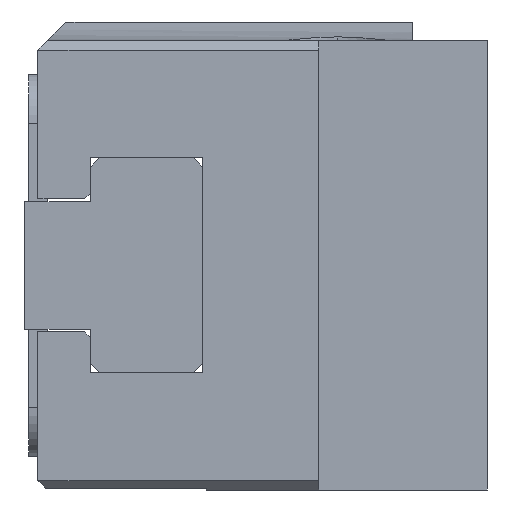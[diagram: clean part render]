
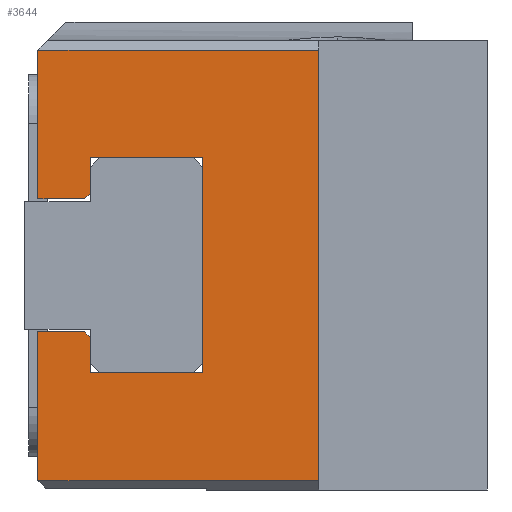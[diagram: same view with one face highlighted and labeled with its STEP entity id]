
A CAD part, left-side view. The second image highlights one B-rep face of the part: STEP entity #3644.
In plain terms, the highlighted planar face has unit normal (-1, 0, 0).
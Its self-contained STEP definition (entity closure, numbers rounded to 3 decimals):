
#106 = CARTESIAN_POINT ( 'NONE',  ( -22.5, 24., 0. ) ) ;
#111 = LINE ( 'NONE', #11834, #14167 ) ;
#143 = VERTEX_POINT ( 'NONE', #3299 ) ;
#171 = ORIENTED_EDGE ( 'NONE', *, *, #10948, .T. ) ;
#514 = DIRECTION ( 'NONE',  ( 0., 0., -1. ) ) ;
#624 = EDGE_LOOP ( 'NONE', ( #9483, #10782, #894, #171, #10718, #7230, #6468, #12890, #4898, #7928, #9270, #8977, #3609, #8436 ) ) ;
#734 = CARTESIAN_POINT ( 'NONE',  ( -22.5, 15.2, 5.75 ) ) ;
#818 = CARTESIAN_POINT ( 'NONE',  ( -22.5, 9., -11.5 ) ) ;
#894 = ORIENTED_EDGE ( 'NONE', *, *, #14099, .T. ) ;
#1093 = CARTESIAN_POINT ( 'NONE',  ( -22.5, 9., 11.5 ) ) ;
#1195 = DIRECTION ( 'NONE',  ( 0., 0.707, 0.707 ) ) ;
#1214 = DIRECTION ( 'NONE',  ( 0., -1., 0. ) ) ;
#1274 = CARTESIAN_POINT ( 'NONE',  ( -22.5, 21.2, 3.85 ) ) ;
#1322 = DIRECTION ( 'NONE',  ( 0., -0.707, 0.707 ) ) ;
#1554 = VERTEX_POINT ( 'NONE', #8199 ) ;
#1556 = EDGE_CURVE ( 'NONE', #8427, #143, #8262, .T. ) ;
#1659 = DIRECTION ( 'NONE',  ( 0., 0., -1. ) ) ;
#2210 = EDGE_CURVE ( 'NONE', #4740, #7560, #111, .T. ) ;
#2254 = LINE ( 'NONE', #10288, #8183 ) ;
#2496 = DIRECTION ( 'NONE',  ( 0., -1., 0. ) ) ;
#2565 = VERTEX_POINT ( 'NONE', #9911 ) ;
#2786 = VERTEX_POINT ( 'NONE', #3110 ) ;
#2800 = LINE ( 'NONE', #1274, #5065 ) ;
#2888 = EDGE_CURVE ( 'NONE', #143, #14112, #11016, .T. ) ;
#2918 = CARTESIAN_POINT ( 'NONE',  ( -22.5, 21.2, -3.85 ) ) ;
#2939 = VERTEX_POINT ( 'NONE', #3566 ) ;
#3001 = VERTEX_POINT ( 'NONE', #8093 ) ;
#3110 = CARTESIAN_POINT ( 'NONE',  ( -22.5, 24., -11.5 ) ) ;
#3170 = CARTESIAN_POINT ( 'NONE',  ( -22.5, 0., 5.75 ) ) ;
#3269 = EDGE_CURVE ( 'NONE', #2786, #9022, #4326, .T. ) ;
#3299 = CARTESIAN_POINT ( 'NONE',  ( -22.5, 15.2, -5.75 ) ) ;
#3508 = CARTESIAN_POINT ( 'NONE',  ( -22.5, 15.2, 0. ) ) ;
#3566 = CARTESIAN_POINT ( 'NONE',  ( -22.5, 21.2, 3.85 ) ) ;
#3609 = ORIENTED_EDGE ( 'NONE', *, *, #8747, .F. ) ;
#3644 = ADVANCED_FACE ( 'NONE', ( #9203 ), #12426, .F. ) ;
#3965 = VECTOR ( 'NONE', #14232, 1000. ) ;
#4037 = DIRECTION ( 'NONE',  ( 0., 1., 0. ) ) ;
#4163 = VECTOR ( 'NONE', #6515, 1000. ) ;
#4208 = AXIS2_PLACEMENT_3D ( 'NONE', #12375, #8965, #11154 ) ;
#4326 = LINE ( 'NONE', #13182, #3965 ) ;
#4525 = LINE ( 'NONE', #3170, #4163 ) ;
#4537 = DIRECTION ( 'NONE',  ( 0., 0., 1. ) ) ;
#4740 = VERTEX_POINT ( 'NONE', #11553 ) ;
#4898 = ORIENTED_EDGE ( 'NONE', *, *, #2888, .F. ) ;
#5065 = VECTOR ( 'NONE', #1322, 1000. ) ;
#5076 = VECTOR ( 'NONE', #1659, 1000. ) ;
#5209 = CARTESIAN_POINT ( 'NONE',  ( -22.5, 21.2, -5.75 ) ) ;
#5601 = VERTEX_POINT ( 'NONE', #2918 ) ;
#5659 = VECTOR ( 'NONE', #1214, 1000. ) ;
#6291 = VECTOR ( 'NONE', #4037, 1000. ) ;
#6329 = CARTESIAN_POINT ( 'NONE',  ( -22.5, 0., -5.75 ) ) ;
#6468 = ORIENTED_EDGE ( 'NONE', *, *, #13964, .F. ) ;
#6515 = DIRECTION ( 'NONE',  ( 0., 1., 0. ) ) ;
#6651 = LINE ( 'NONE', #8486, #6291 ) ;
#6777 = VECTOR ( 'NONE', #514, 1000. ) ;
#7120 = LINE ( 'NONE', #10460, #6777 ) ;
#7142 = LINE ( 'NONE', #8080, #12715 ) ;
#7230 = ORIENTED_EDGE ( 'NONE', *, *, #7745, .T. ) ;
#7317 = EDGE_CURVE ( 'NONE', #5601, #8427, #7714, .T. ) ;
#7560 = VERTEX_POINT ( 'NONE', #9863 ) ;
#7714 = LINE ( 'NONE', #9421, #5076 ) ;
#7728 = VECTOR ( 'NONE', #8083, 1000. ) ;
#7745 = EDGE_CURVE ( 'NONE', #4740, #2939, #2800, .T. ) ;
#7790 = CARTESIAN_POINT ( 'NONE',  ( -22.5, 21.5, -3.55 ) ) ;
#7816 = VECTOR ( 'NONE', #1195, 1000. ) ;
#7928 = ORIENTED_EDGE ( 'NONE', *, *, #1556, .F. ) ;
#8034 = VERTEX_POINT ( 'NONE', #1093 ) ;
#8080 = CARTESIAN_POINT ( 'NONE',  ( -22.5, 24., 3.55 ) ) ;
#8083 = DIRECTION ( 'NONE',  ( 0., 0., 1. ) ) ;
#8093 = CARTESIAN_POINT ( 'NONE',  ( -22.5, 21.2, 5.75 ) ) ;
#8183 = VECTOR ( 'NONE', #2496, 1000. ) ;
#8199 = CARTESIAN_POINT ( 'NONE',  ( -22.5, 24., -3.55 ) ) ;
#8262 = LINE ( 'NONE', #6329, #5659 ) ;
#8427 = VERTEX_POINT ( 'NONE', #5209 ) ;
#8433 = LINE ( 'NONE', #106, #13997 ) ;
#8436 = ORIENTED_EDGE ( 'NONE', *, *, #12724, .F. ) ;
#8486 = CARTESIAN_POINT ( 'NONE',  ( -22.5, 24., 11.5 ) ) ;
#8737 = VECTOR ( 'NONE', #14139, 1000. ) ;
#8747 = EDGE_CURVE ( 'NONE', #1554, #14395, #2254, .T. ) ;
#8965 = DIRECTION ( 'NONE',  ( 1., 0., 0. ) ) ;
#8977 = ORIENTED_EDGE ( 'NONE', *, *, #10401, .T. ) ;
#9015 = CARTESIAN_POINT ( 'NONE',  ( -22.5, 21.5, -3.55 ) ) ;
#9022 = VERTEX_POINT ( 'NONE', #818 ) ;
#9171 = EDGE_CURVE ( 'NONE', #14112, #3001, #4525, .T. ) ;
#9203 = FACE_OUTER_BOUND ( 'NONE', #624, .T. ) ;
#9238 = DIRECTION ( 'NONE',  ( 0., 0., -1. ) ) ;
#9270 = ORIENTED_EDGE ( 'NONE', *, *, #7317, .F. ) ;
#9421 = CARTESIAN_POINT ( 'NONE',  ( -22.5, 21.2, 0. ) ) ;
#9483 = ORIENTED_EDGE ( 'NONE', *, *, #3269, .T. ) ;
#9863 = CARTESIAN_POINT ( 'NONE',  ( -22.5, 24., 3.55 ) ) ;
#9911 = CARTESIAN_POINT ( 'NONE',  ( -22.5, 24., 11.5 ) ) ;
#9997 = EDGE_CURVE ( 'NONE', #8034, #9022, #7120, .T. ) ;
#10288 = CARTESIAN_POINT ( 'NONE',  ( -22.5, 0., -3.55 ) ) ;
#10401 = EDGE_CURVE ( 'NONE', #5601, #14395, #11100, .T. ) ;
#10460 = CARTESIAN_POINT ( 'NONE',  ( -22.5, 9., 12. ) ) ;
#10718 = ORIENTED_EDGE ( 'NONE', *, *, #2210, .F. ) ;
#10782 = ORIENTED_EDGE ( 'NONE', *, *, #9997, .F. ) ;
#10948 = EDGE_CURVE ( 'NONE', #2565, #7560, #7142, .T. ) ;
#11016 = LINE ( 'NONE', #3508, #7728 ) ;
#11100 = LINE ( 'NONE', #7790, #7816 ) ;
#11154 = DIRECTION ( 'NONE',  ( 0., 0., -1. ) ) ;
#11353 = LINE ( 'NONE', #11910, #8737 ) ;
#11553 = CARTESIAN_POINT ( 'NONE',  ( -22.5, 21.5, 3.55 ) ) ;
#11834 = CARTESIAN_POINT ( 'NONE',  ( -22.5, 0., 3.55 ) ) ;
#11910 = CARTESIAN_POINT ( 'NONE',  ( -22.5, 21.2, 0. ) ) ;
#12375 = CARTESIAN_POINT ( 'NONE',  ( -22.5, 0., 0. ) ) ;
#12426 = PLANE ( 'NONE',  #4208 ) ;
#12715 = VECTOR ( 'NONE', #9238, 1000. ) ;
#12724 = EDGE_CURVE ( 'NONE', #2786, #1554, #8433, .T. ) ;
#12890 = ORIENTED_EDGE ( 'NONE', *, *, #9171, .F. ) ;
#13182 = CARTESIAN_POINT ( 'NONE',  ( -22.5, 24., -11.5 ) ) ;
#13885 = DIRECTION ( 'NONE',  ( 0., 1., 0. ) ) ;
#13964 = EDGE_CURVE ( 'NONE', #3001, #2939, #11353, .T. ) ;
#13997 = VECTOR ( 'NONE', #4537, 1000. ) ;
#14099 = EDGE_CURVE ( 'NONE', #8034, #2565, #6651, .T. ) ;
#14112 = VERTEX_POINT ( 'NONE', #734 ) ;
#14139 = DIRECTION ( 'NONE',  ( 0., 0., -1. ) ) ;
#14167 = VECTOR ( 'NONE', #13885, 1000. ) ;
#14232 = DIRECTION ( 'NONE',  ( 0., -1., 0. ) ) ;
#14395 = VERTEX_POINT ( 'NONE', #9015 ) ;
